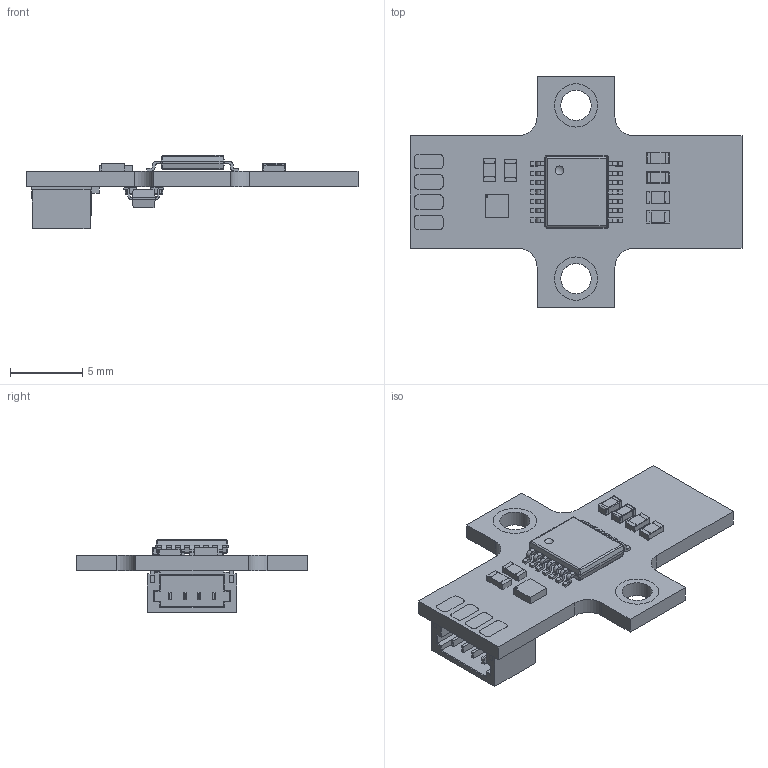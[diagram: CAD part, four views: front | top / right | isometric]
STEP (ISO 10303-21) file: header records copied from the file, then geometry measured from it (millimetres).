
FILE_DESCRIPTION(/* description */ (''),/* implementation_level */ '2;1');
FILE_NAME(/* name */ 'C:/Users/Андрей/Desktop/ENC_AS5048B_iFlight_23mm v5.step',/* time_stamp */ '2021-04-23T19:27:16+03:00',/* author */ (''),/* organization */ (''),/* preprocessor_version */ 'ST-DEVELOPER v18.1',/* originating_system */ 'Autodesk Translation Framework v10.6.0.1341',/* authorisation */ '');
FILE_SCHEMA (('AUTOMOTIVE_DESIGN { 1 0 10303 214 3 1 1 }'));
Length unit declared in the file: millimetre
Products named in the file (20): ENC_AS5048B_iFlight_23mm; Board; U3; SLP1616P6; U2; User_Library-TSSOP14-1; U1; SOT23-5-2; R4; R3; R2; R1; Resistors_0603; P1; 1734709-4; C4; C3; C2; C1; CAPC1608X___
Assembly tree (25 placements, depth 3):
  ENC_AS5048B_iFlight_23mm
    Board
    U3
      SLP1616P6
    U2
      User_Library-TSSOP14-1
    U1
      SOT23-5-2
    R4
      Resistors_0603
    R3
      Resistors_0603
    R2
      Resistors_0603
    R1
      Resistors_0603
    P1
      1734709-4
    C4
      CAPC1608X___
    C3
      CAPC1608X___
    C2
      CAPC1608X___
    C1
      CAPC1608X___
Bounding box: 23 x 16 x 5.08 mm (x, y, z)
Volume: 316.3 mm3; surface area: 1012.1 mm2
Topology: 47 solids, 47 shells, 1346 faces, 3312 edges, 2045 vertices
Faces by surface type: plane 849, cylinder 415, bspline 40, torus 32, cone 8, sphere 2
Full cylindrical faces by diameter (mm): 0.127 x1, 0.6 x1, 2.1 x2, 2.6 x4, 3 x8
Entity records: 27349 total; most frequent: CARTESIAN_POINT 5615, DIRECTION 4342, ORIENTED_EDGE 4314, EDGE_CURVE 2157, LINE 1702, VECTOR 1702, VERTEX_POINT 1373, AXIS2_PLACEMENT_3D 1320
